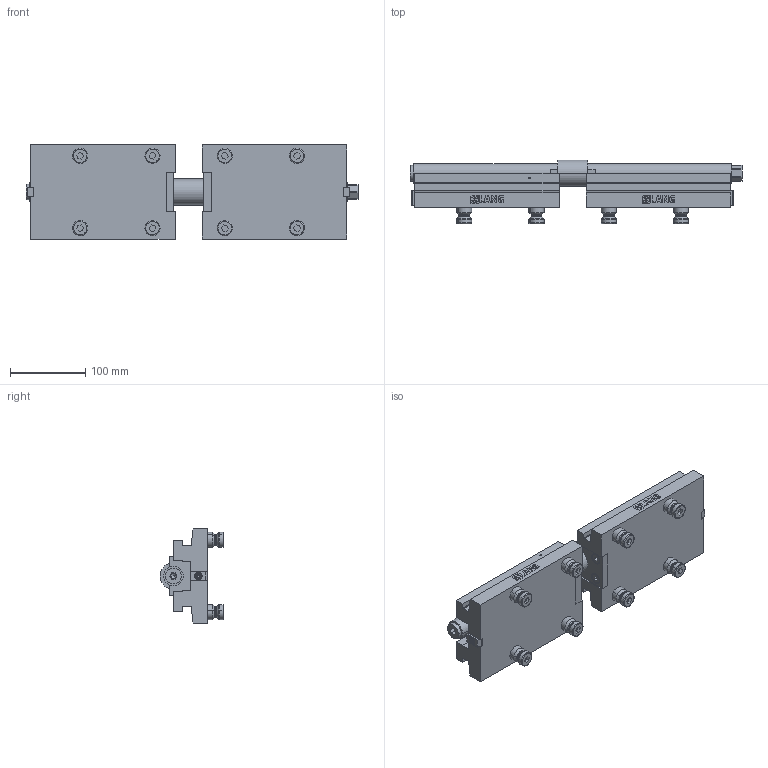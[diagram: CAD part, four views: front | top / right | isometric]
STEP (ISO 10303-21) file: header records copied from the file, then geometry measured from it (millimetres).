
FILE_DESCRIPTION (( 'STEP AP214' ), '1' );
FILE_NAME ('81400.STEP', '2020-10-28T07:12:40', ( '' ), ( '' ), 'SwSTEP 2.0', 'SolidWorks 2019', '' );
FILE_SCHEMA (( 'AUTOMOTIVE_DESIGN' ));
Length unit declared in the file: millimetre
Products named in the file (1): 81400
Bounding box: 441 x 84.5 x 125 mm (x, y, z)
Volume: 1752114.9 mm3; surface area: 262368 mm2
Topology: 23 solids, 23 shells, 1063 faces, 2613 edges, 1666 vertices
Faces by surface type: plane 646, cylinder 159, cone 102, bspline 80, torus 72, sphere 4
Entity records: 43630 total; most frequent: CARTESIAN_POINT 6757, ORIENTED_EDGE 5178, DIRECTION 4965, EDGE_CURVE 2589, VECTOR 1865, LINE 1865, VERTEX_POINT 1666, AXIS2_PLACEMENT_3D 1550
